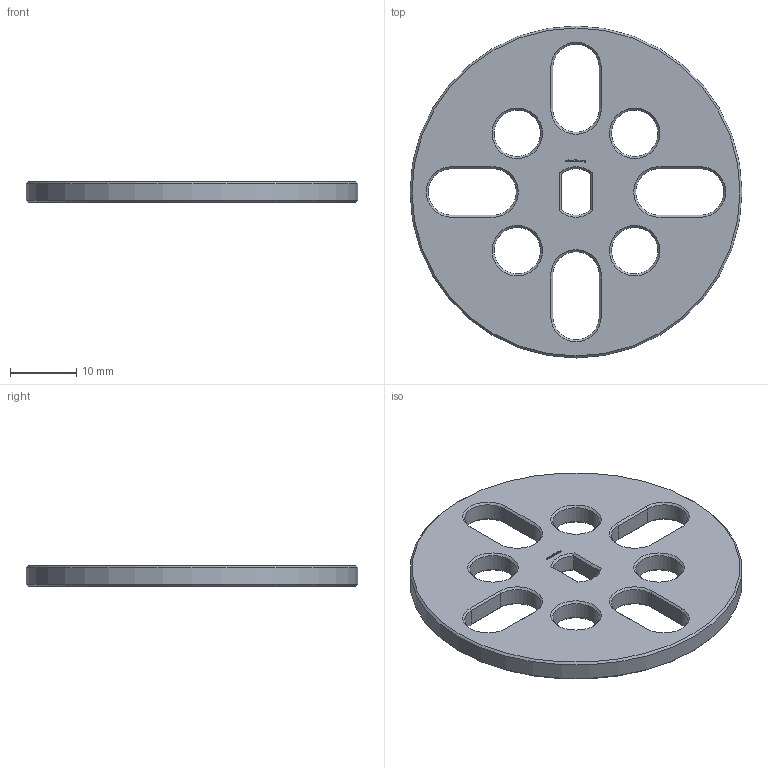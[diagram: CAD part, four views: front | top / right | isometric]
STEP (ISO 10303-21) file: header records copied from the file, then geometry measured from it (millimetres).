
FILE_DESCRIPTION(/* description */ (''),/* implementation_level */ '2;1');
FILE_NAME(/* name */ '/Users/paulokiefe/Desktop/STEMFIE/Fasteners/Washers/Fixed/Washer WSR FXD BU0.25x4.00 - SPN-WSR-0013 v1.step',/* time_stamp */ '2020-09-27T23:16:33+02:00',/* author */ (''),/* organization */ (''),/* preprocessor_version */ 'ST-DEVELOPER v18.1',/* originating_system */ 'Autodesk Translation Framework v9.3.0.1241',/* authorisation */ '');
FILE_SCHEMA (('AUTOMOTIVE_DESIGN { 1 0 10303 214 3 1 1 }'));
Length unit declared in the file: millimetre
Products named in the file (1): Washer WSR FXD BU0.25x4.00 - SPN-WSR-0013
Bounding box: 50 x 50 x 3.12 mm (x, y, z)
Volume: 4500.7 mm3; surface area: 4025.4 mm2
Topology: 1 solids, 1 shells, 321 faces, 871 edges, 564 vertices
Faces by surface type: plane 276, cone 30, cylinder 15
Full cylindrical faces by diameter (mm): 7 x4, 50 x1
Entity records: 9962 total; most frequent: CARTESIAN_POINT 1781, ORIENTED_EDGE 1742, DIRECTION 1567, EDGE_CURVE 871, LINE 803, VECTOR 803, VERTEX_POINT 564, AXIS2_PLACEMENT_3D 382
